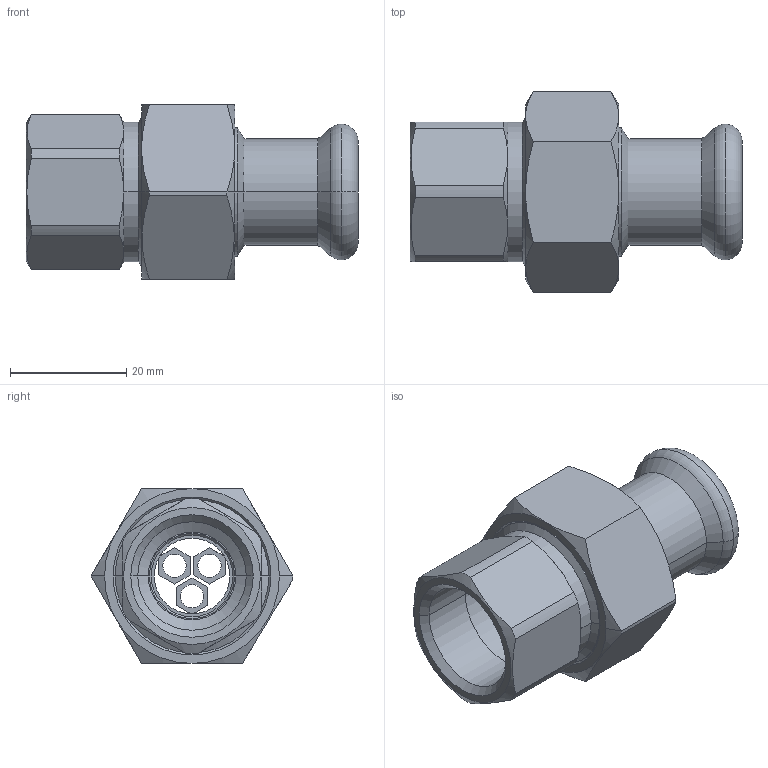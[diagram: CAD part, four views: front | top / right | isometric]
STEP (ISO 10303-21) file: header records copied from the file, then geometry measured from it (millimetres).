
FILE_DESCRIPTION(('OneSpaceDesigner STEP Export'),'2;1');
FILE_NAME('R2738 15xRp1-2.stp','2010-06-10T14:13:55',(''),(''),'OneSpace Designer STEP processor for AP214 (Solid Model)','OneSpace Modeling 15.00A 14-Mar-2007 (C) CoCreate Software GmbH','');
FILE_SCHEMA(('AUTOMOTIVE_DESIGN { 1 0 10303 214 1 1 1 1 }'));
Length unit declared in the file: millimetre
Products named in the file (2): R2738_15xRp1-2
Assembly tree (1 placements, depth 2):
  R2738_15xRp1-2
    R2738_15xRp1-2
Bounding box: 57 x 34.64 x 30 mm (x, y, z)
Volume: 15448.6 mm3; surface area: 10643.8 mm2
Topology: 1 solids, 1 shells, 143 faces, 332 edges, 200 vertices
Faces by surface type: plane 47, cylinder 44, cone 44, torus 8
Entity records: 5145 total; most frequent: CARTESIAN_POINT 2287, ORIENTED_EDGE 664, DIRECTION 462, EDGE_CURVE 332, VERTEX_POINT 200, EDGE_LOOP 160, VECTOR 156, LINE 156
